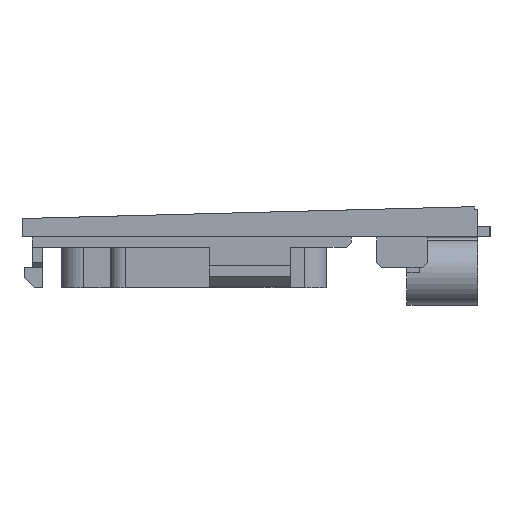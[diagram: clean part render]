
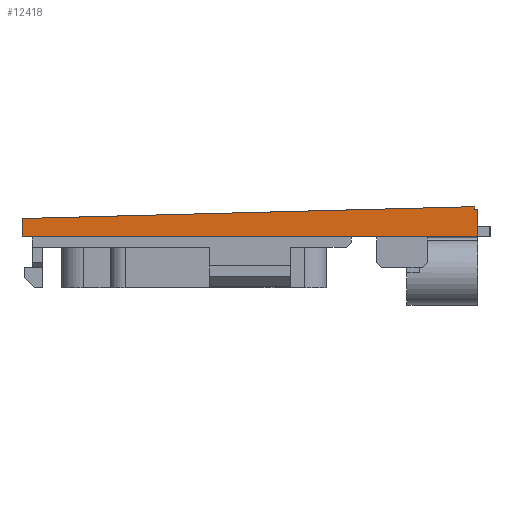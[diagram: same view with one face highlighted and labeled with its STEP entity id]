
A CAD part, left-side view. The second image highlights one B-rep face of the part: STEP entity #12418.
In plain terms, the highlighted planar face has unit normal (-1, 0.009, 0).
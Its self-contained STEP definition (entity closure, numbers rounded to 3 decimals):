
#121=DIRECTION('',(0.009,1.,-0.026));
#122=VECTOR('',#121,44.717);
#123=CARTESIAN_POINT('',(-70.39,0.3,84.992));
#124=LINE('',#123,#122);
#4484=DIRECTION('',(0.,0.,-1.));
#4485=VECTOR('',#4484,0.292);
#4486=CARTESIAN_POINT('',(-70.39,0.3,84.992));
#4487=LINE('',#4486,#4485);
#4488=DIRECTION('',(0.009,1.,0.));
#4489=VECTOR('',#4488,0.3);
#4490=CARTESIAN_POINT('',(-70.393,0.,84.7));
#4491=LINE('',#4490,#4489);
#4492=DIRECTION('',(0.,0.,-1.));
#4493=VECTOR('',#4492,1.001);
#4494=CARTESIAN_POINT('',(-70.393,0.,83.));
#4495=LINE('',#4494,#4493);
#4496=DIRECTION('',(-0.009,-1.,0.));
#4497=VECTOR('',#4496,45.002);
#4498=CARTESIAN_POINT('',(-70.,45.,81.999));
#4499=LINE('',#4498,#4497);
#4500=DIRECTION('',(0.,0.,1.));
#4501=VECTOR('',#4500,1.823);
#4502=CARTESIAN_POINT('',(-70.,45.,81.999));
#4503=LINE('',#4502,#4501);
#4516=DIRECTION('',(0.,0.,-1.));
#4517=VECTOR('',#4516,1.7);
#4518=CARTESIAN_POINT('',(-70.393,0.,84.7));
#4519=LINE('',#4518,#4517);
#4731=CARTESIAN_POINT('',(-70.,45.,83.822));
#4733=VERTEX_POINT('',#4731);
#5494=CARTESIAN_POINT('',(-70.393,0.,83.));
#5495=CARTESIAN_POINT('',(-70.393,0.,81.999));
#5496=VERTEX_POINT('',#5494);
#5497=VERTEX_POINT('',#5495);
#5634=CARTESIAN_POINT('',(-70.393,0.,84.7));
#5636=VERTEX_POINT('',#5634);
#5638=CARTESIAN_POINT('',(-70.39,0.3,84.992));
#5640=VERTEX_POINT('',#5638);
#5644=CARTESIAN_POINT('',(-70.39,0.3,84.7));
#5645=VERTEX_POINT('',#5644);
#5663=CARTESIAN_POINT('',(-70.,45.,81.999));
#5665=VERTEX_POINT('',#5663);
#12400=CARTESIAN_POINT('',(-70.,45.,-3.468));
#12401=DIRECTION('',(-1.,0.009,0.));
#12402=DIRECTION('',(0.,0.,1.));
#12403=AXIS2_PLACEMENT_3D('',#12400,#12401,#12402);
#12404=PLANE('',#12403);
#12405=ORIENTED_EDGE('',*,*,#6166,.T.);
#12407=ORIENTED_EDGE('',*,*,#12406,.F.);
#12409=ORIENTED_EDGE('',*,*,#12408,.T.);
#12411=ORIENTED_EDGE('',*,*,#12410,.T.);
#12412=ORIENTED_EDGE('',*,*,#6575,.F.);
#12414=ORIENTED_EDGE('',*,*,#12413,.T.);
#12415=ORIENTED_EDGE('',*,*,#6177,.F.);
#12416=EDGE_LOOP('',(#12405,#12407,#12409,#12411,#12412,#12414,#12415));
#12417=FACE_OUTER_BOUND('',#12416,.F.);
#12418=ADVANCED_FACE('',(#12417),#12404,.T.);
#6166=EDGE_CURVE('',#5640,#5645,#4487,.T.);
#6177=EDGE_CURVE('',#5640,#4733,#124,.T.);
#6575=EDGE_CURVE('',#5665,#5497,#4499,.T.);
#12406=EDGE_CURVE('',#5636,#5645,#4491,.T.);
#12408=EDGE_CURVE('',#5636,#5496,#4519,.T.);
#12410=EDGE_CURVE('',#5496,#5497,#4495,.T.);
#12413=EDGE_CURVE('',#5665,#4733,#4503,.T.);
